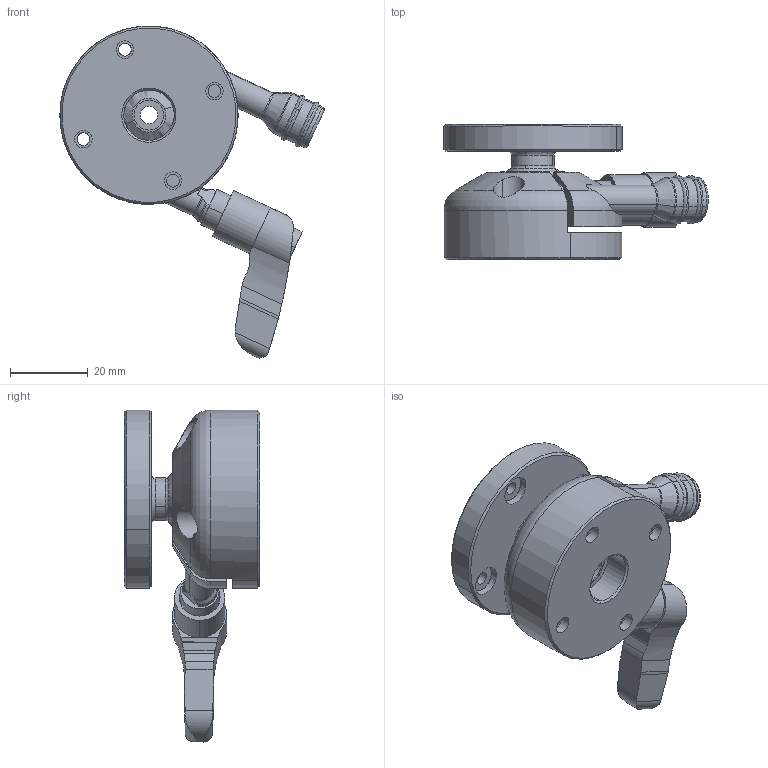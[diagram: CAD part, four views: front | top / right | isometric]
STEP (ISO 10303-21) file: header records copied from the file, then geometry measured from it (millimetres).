
FILE_DESCRIPTION (( 'STEP AP203' ), '1' );
FILE_NAME ('GK08-SKS Gelenkkopf-Schnellklemmsatz.STEP', '2020-10-30T14:54:34', ( '' ), ( '' ), 'SwSTEP 2.0', 'SolidWorks 2019', '' );
FILE_SCHEMA (( 'CONFIG_CONTROL_DESIGN' ));
Length unit declared in the file: millimetre
Products named in the file (3): GK08-schwenkteil; GK08-SKS Gelenkkopf-Schnellklemmsatz; GK08-SKS-fix
Assembly tree (2 placements, depth 2):
  GK08-SKS Gelenkkopf-Schnellklemmsatz
    GK08-SKS-fix
    GK08-schwenkteil
Bounding box: 68.21 x 34.98 x 85.64 mm (x, y, z)
Volume: 46086.7 mm3; surface area: 22665.4 mm2
Topology: 13 solids, 13 shells, 462 faces, 1153 edges, 710 vertices
Faces by surface type: cylinder 152, cone 138, plane 116, torus 44, sphere 6, bspline 6
Entity records: 15667 total; most frequent: CARTESIAN_POINT 4423, DIRECTION 2316, ORIENTED_EDGE 2294, EDGE_CURVE 1147, AXIS2_PLACEMENT_3D 1011, VERTEX_POINT 710, EDGE_LOOP 551, CIRCLE 550
